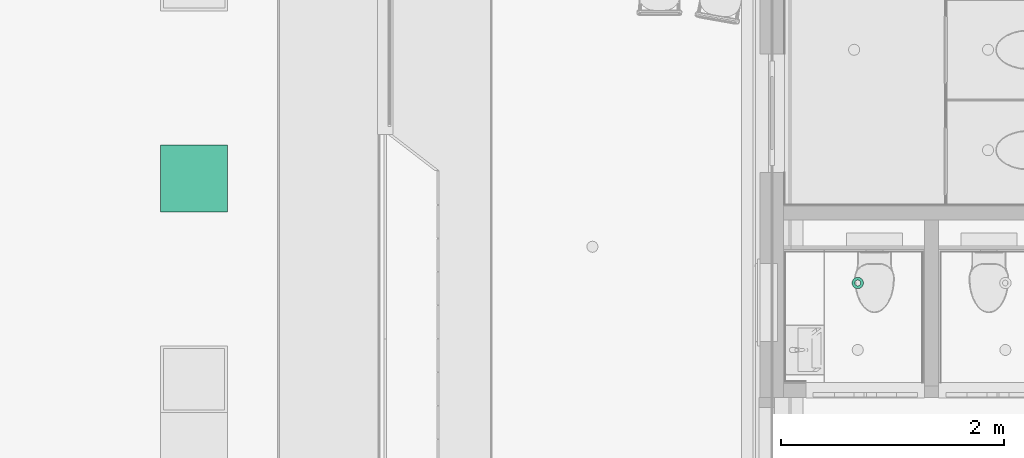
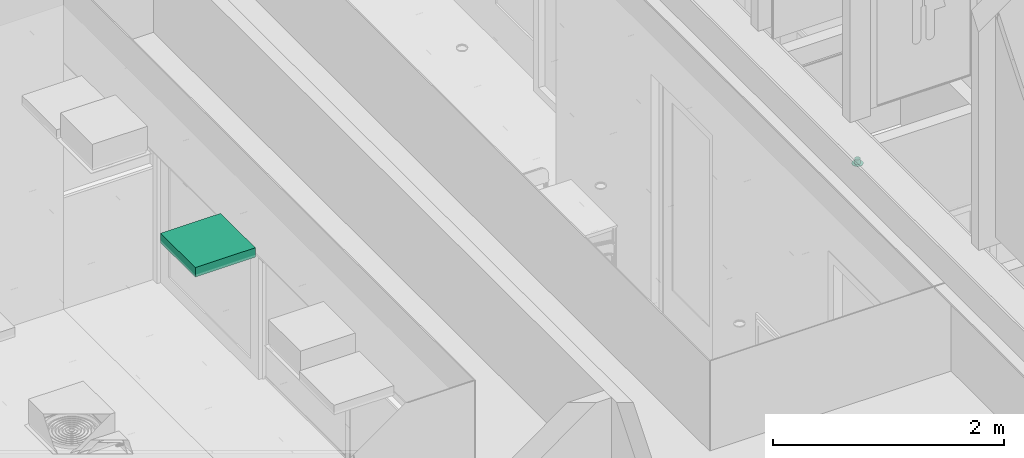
# One storey, part 231 of 347: 2 flow terminals.
"""IFC2X3 building model written with IfcOpenShell, lengths in millimetres."""

from ifc_helpers import new_model, entity, si_unit, converted_unit, derived_unit, money_unit, direction, frame, origin_with_axes, place, context, subcontext, project, spatial, open_shell, faceted_brep, surface_model, source, transform, mapped, type_object, type_shapes, element, save


model = new_model("IFC2X3")

# Units and contexts
model_context = context("Model", 3, precision=0.01, world=origin_with_axes(), true_north=direction((0.0, 1.0)))
plan_context = context("Plan", 3, precision=0.01, world=origin_with_axes(), true_north=direction((0.0, 1.0)))
body_context = subcontext(model_context, "Body", "Model", "MODEL_VIEW")
ifc_project = project(units=[si_unit("LENGTHUNIT", "METRE", prefix="MILLI"), si_unit("AREAUNIT", "SQUARE_METRE"), si_unit("VOLUMEUNIT", "CUBIC_METRE"), converted_unit("PLANEANGLEUNIT", "DEGREE", entity("IfcPlaneAngleMeasure", 0.0174532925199), si_unit("PLANEANGLEUNIT", "RADIAN"), dimensions=[0, 0, 0, 0, 0, 0, 0]), money_unit("EUR"), converted_unit("TIMEUNIT", "Year", entity("IfcTimeMeasure", 31556926.0), si_unit("TIMEUNIT", "SECOND"), dimensions=[0, 0, 1, 0, 0, 0, 0]), si_unit("MASSUNIT", "GRAM", prefix="KILO"), si_unit("THERMODYNAMICTEMPERATUREUNIT", "DEGREE_CELSIUS"), si_unit("LUMINOUSINTENSITYUNIT", "LUMEN"), si_unit("ENERGYUNIT", "JOULE", prefix="MEGA"), derived_unit("THERMALCONDUCTANCEUNIT", [(si_unit("POWERUNIT", "WATT"), 1), (si_unit("LENGTHUNIT", "METRE"), -1), (si_unit("THERMODYNAMICTEMPERATUREUNIT", "KELVIN"), -1)]), derived_unit("SPECIFICHEATCAPACITYUNIT", [(si_unit("ENERGYUNIT", "JOULE"), 1), (si_unit("MASSUNIT", "GRAM", prefix="KILO"), -1), (si_unit("THERMODYNAMICTEMPERATUREUNIT", "KELVIN"), -1)]), derived_unit("MASSDENSITYUNIT", [(si_unit("MASSUNIT", "GRAM", prefix="KILO"), 1), (si_unit("VOLUMEUNIT", "CUBIC_METRE"), -1)])], contexts=[model_context, plan_context])

# Site, building, storey
site_placement = place(None, origin_with_axes())
site = spatial("IfcSite", under=ifc_project, at=site_placement, Name="Site", CompositionType="ELEMENT")
building_placement = place(site_placement, origin_with_axes())
building = spatial("IfcBuilding", under=site, at=building_placement, Name="Naam gebouw", CompositionType="ELEMENT")
storey_placement = place(building_placement, origin_with_axes())
storey = spatial("IfcBuildingStorey", under=building, at=storey_placement, Name="begane grond", CompositionType="ELEMENT", Elevation=0.0)

# Flow terminals
lamp_type = type_object("IfcLampType", Name="TL plafond 25", PredefinedType="NOTDEFINED")
shared_shape_1 = source(origin_with_axes(), body_context, "Body", "SurfaceModel", [
    faceted_brep([(0.0, 0.0, -100.0), (600.0, 0.0, -100.0), (600.0, 0.0, 0.0), (0.0, 0.0, 0.0), (0.0, 600.0, -100.0), (600.0, 600.0, -100.0), (40.0, 40.0, -100.0), (560.0, 40.0, -100.0), (560.0, 560.0, -100.0), (40.0, 560.0, -100.0), (600.0, 600.0, 0.0), (0.0, 600.0, 0.0), (40.0, 40.0, 0.0), (40.0, 560.0, 0.0), (560.0, 560.0, 0.0), (560.0, 40.0, 0.0)], [[[0, 1, 2, 3]], [[0, 4, 5, 1], [6, 7, 8, 9]], [[1, 5, 10, 2]], [[3, 2, 10, 11], [12, 13, 14, 15]], [[4, 0, 3, 11]], [[5, 4, 11, 10]], [[7, 6, 12, 15]], [[8, 7, 15, 14]], [[9, 8, 14, 13]], [[6, 9, 13, 12]]]),
    faceted_brep([(40.0, 40.0, -16.3333333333), (560.0, 40.0, -16.3333333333), (560.0, 40.0, 0.0), (40.0, 40.0, 0.0), (40.0, 560.0, -16.3333333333), (560.0, 560.0, -16.3333333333), (560.0, 560.0, 0.0), (40.0, 560.0, 0.0)], [[[0, 1, 2, 3]], [[0, 4, 5, 1]], [[1, 5, 6, 2]], [[3, 2, 6, 7]], [[4, 0, 3, 7]], [[5, 4, 7, 6]]]),
    surface_model("IfcShellBasedSurfaceModel", [(559.0, 41.0, -100.0), (40.0, 41.0, -100.0), (40.0, 559.0, -100.0), (559.0, 559.0, -100.0)], [open_shell([[[0, 1, 2, 3]]])]),
    faceted_brep([(40.0, 40.0, -100.0), (560.0, 40.0, -100.0), (560.0, 40.0, -60.0), (40.0, 40.0, -60.0), (40.0, 560.0, -100.0), (560.0, 560.0, -100.0), (41.0, 41.0, -100.0), (559.0, 41.0, -100.0), (559.0, 559.0, -100.0), (41.0, 559.0, -100.0), (560.0, 560.0, -60.0), (40.0, 560.0, -60.0), (41.0, 41.0, -60.0), (41.0, 559.0, -60.0), (559.0, 559.0, -60.0), (559.0, 41.0, -60.0)], [[[0, 1, 2, 3]], [[0, 4, 5, 1], [6, 7, 8, 9]], [[1, 5, 10, 2]], [[3, 2, 10, 11], [12, 13, 14, 15]], [[4, 0, 3, 11]], [[5, 4, 11, 10]], [[7, 6, 12, 15]], [[8, 7, 15, 14]], [[9, 8, 14, 13]], [[6, 9, 13, 12]]]),
    faceted_brep([(40.0, 144.0, -48.3333333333), (40.0, 149.740251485, -47.191526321), (560.0, 149.740251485, -47.191526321), (560.0, 144.0, -48.3333333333), (40.0, 138.259748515, -47.191526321), (40.0, 133.393398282, -43.9399350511), (40.0, 130.141807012, -39.0735848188), (40.0, 129.0, -33.3333333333), (40.0, 130.141807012, -27.5930818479), (40.0, 133.393398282, -22.7267316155), (40.0, 138.259748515, -19.4751403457), (40.0, 144.0, -18.3333333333), (40.0, 149.740251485, -19.4751403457), (40.0, 154.606601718, -22.7267316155), (40.0, 157.858192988, -27.5930818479), (40.0, 159.0, -33.3333333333), (40.0, 157.858192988, -39.0735848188), (40.0, 154.606601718, -43.9399350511), (40.0, 144.0, -46.3333333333), (40.0, 148.974884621, -45.343767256), (40.0, 153.192388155, -42.5257214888), (40.0, 156.010433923, -38.3082179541), (40.0, 157.0, -33.3333333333), (40.0, 156.010433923, -28.3584487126), (40.0, 153.192388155, -24.1409451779), (40.0, 148.974884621, -21.3228994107), (40.0, 144.0, -20.3333333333), (40.0, 139.025115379, -21.3228994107), (40.0, 134.807611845, -24.1409451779), (40.0, 131.989566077, -28.3584487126), (40.0, 131.0, -33.3333333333), (40.0, 131.989566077, -38.3082179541), (40.0, 134.807611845, -42.5257214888), (40.0, 139.025115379, -45.343767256), (560.0, 154.606601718, -43.9399350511), (560.0, 157.858192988, -39.0735848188), (560.0, 159.0, -33.3333333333), (560.0, 157.858192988, -27.5930818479), (560.0, 154.606601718, -22.7267316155), (560.0, 149.740251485, -19.4751403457), (560.0, 144.0, -18.3333333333), (560.0, 138.259748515, -19.4751403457), (560.0, 133.393398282, -22.7267316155), (560.0, 130.141807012, -27.5930818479), (560.0, 129.0, -33.3333333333), (560.0, 130.141807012, -39.0735848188), (560.0, 133.393398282, -43.9399350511), (560.0, 138.259748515, -47.191526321), (560.0, 144.0, -46.3333333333), (560.0, 139.025115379, -45.343767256), (560.0, 134.807611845, -42.5257214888), (560.0, 131.989566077, -38.3082179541), (560.0, 131.0, -33.3333333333), (560.0, 131.989566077, -28.3584487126), (560.0, 134.807611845, -24.1409451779), (560.0, 139.025115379, -21.3228994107), (560.0, 144.0, -20.3333333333), (560.0, 148.974884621, -21.3228994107), (560.0, 153.192388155, -24.1409451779), (560.0, 156.010433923, -28.3584487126), (560.0, 157.0, -33.3333333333), (560.0, 156.010433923, -38.3082179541), (560.0, 153.192388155, -42.5257214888), (560.0, 148.974884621, -45.343767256)], [[[0, 1, 2, 3]], [[0, 4, 5, 6, 7, 8, 9, 10, 11, 12, 13, 14, 15, 16, 17, 1], [18, 19, 20, 21, 22, 23, 24, 25, 26, 27, 28, 29, 30, 31, 32, 33]], [[1, 17, 34, 2]], [[3, 2, 34, 35, 36, 37, 38, 39, 40, 41, 42, 43, 44, 45, 46, 47], [48, 49, 50, 51, 52, 53, 54, 55, 56, 57, 58, 59, 60, 61, 62, 63]], [[4, 0, 3, 47]], [[5, 4, 47, 46]], [[6, 5, 46, 45]], [[7, 6, 45, 44]], [[8, 7, 44, 43]], [[9, 8, 43, 42]], [[10, 9, 42, 41]], [[11, 10, 41, 40]], [[12, 11, 40, 39]], [[13, 12, 39, 38]], [[14, 13, 38, 37]], [[15, 14, 37, 36]], [[16, 15, 36, 35]], [[17, 16, 35, 34]], [[19, 18, 48, 63]], [[20, 19, 63, 62]], [[21, 20, 62, 61]], [[22, 21, 61, 60]], [[23, 22, 60, 59]], [[24, 23, 59, 58]], [[25, 24, 58, 57]], [[26, 25, 57, 56]], [[27, 26, 56, 55]], [[28, 27, 55, 54]], [[29, 28, 54, 53]], [[30, 29, 53, 52]], [[31, 30, 52, 51]], [[32, 31, 51, 50]], [[33, 32, 50, 49]], [[18, 33, 49, 48]]]),
    faceted_brep([(40.0, 248.0, -48.3333333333), (40.0, 253.740251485, -47.191526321), (560.0, 253.740251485, -47.191526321), (560.0, 248.0, -48.3333333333), (40.0, 242.259748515, -47.191526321), (40.0, 237.393398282, -43.9399350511), (40.0, 234.141807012, -39.0735848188), (40.0, 233.0, -33.3333333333), (40.0, 234.141807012, -27.5930818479), (40.0, 237.393398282, -22.7267316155), (40.0, 242.259748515, -19.4751403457), (40.0, 248.0, -18.3333333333), (40.0, 253.740251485, -19.4751403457), (40.0, 258.606601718, -22.7267316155), (40.0, 261.858192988, -27.5930818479), (40.0, 263.0, -33.3333333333), (40.0, 261.858192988, -39.0735848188), (40.0, 258.606601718, -43.9399350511), (40.0, 248.0, -46.3333333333), (40.0, 252.974884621, -45.343767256), (40.0, 257.192388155, -42.5257214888), (40.0, 260.010433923, -38.3082179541), (40.0, 261.0, -33.3333333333), (40.0, 260.010433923, -28.3584487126), (40.0, 257.192388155, -24.1409451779), (40.0, 252.974884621, -21.3228994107), (40.0, 248.0, -20.3333333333), (40.0, 243.025115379, -21.3228994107), (40.0, 238.807611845, -24.1409451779), (40.0, 235.989566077, -28.3584487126), (40.0, 235.0, -33.3333333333), (40.0, 235.989566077, -38.3082179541), (40.0, 238.807611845, -42.5257214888), (40.0, 243.025115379, -45.343767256), (560.0, 258.606601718, -43.9399350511), (560.0, 261.858192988, -39.0735848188), (560.0, 263.0, -33.3333333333), (560.0, 261.858192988, -27.5930818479), (560.0, 258.606601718, -22.7267316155), (560.0, 253.740251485, -19.4751403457), (560.0, 248.0, -18.3333333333), (560.0, 242.259748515, -19.4751403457), (560.0, 237.393398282, -22.7267316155), (560.0, 234.141807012, -27.5930818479), (560.0, 233.0, -33.3333333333), (560.0, 234.141807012, -39.0735848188), (560.0, 237.393398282, -43.9399350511), (560.0, 242.259748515, -47.191526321), (560.0, 248.0, -46.3333333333), (560.0, 243.025115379, -45.343767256), (560.0, 238.807611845, -42.5257214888), (560.0, 235.989566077, -38.3082179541), (560.0, 235.0, -33.3333333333), (560.0, 235.989566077, -28.3584487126), (560.0, 238.807611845, -24.1409451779), (560.0, 243.025115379, -21.3228994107), (560.0, 248.0, -20.3333333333), (560.0, 252.974884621, -21.3228994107), (560.0, 257.192388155, -24.1409451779), (560.0, 260.010433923, -28.3584487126), (560.0, 261.0, -33.3333333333), (560.0, 260.010433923, -38.3082179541), (560.0, 257.192388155, -42.5257214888), (560.0, 252.974884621, -45.343767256)], [[[0, 1, 2, 3]], [[0, 4, 5, 6, 7, 8, 9, 10, 11, 12, 13, 14, 15, 16, 17, 1], [18, 19, 20, 21, 22, 23, 24, 25, 26, 27, 28, 29, 30, 31, 32, 33]], [[1, 17, 34, 2]], [[3, 2, 34, 35, 36, 37, 38, 39, 40, 41, 42, 43, 44, 45, 46, 47], [48, 49, 50, 51, 52, 53, 54, 55, 56, 57, 58, 59, 60, 61, 62, 63]], [[4, 0, 3, 47]], [[5, 4, 47, 46]], [[6, 5, 46, 45]], [[7, 6, 45, 44]], [[8, 7, 44, 43]], [[9, 8, 43, 42]], [[10, 9, 42, 41]], [[11, 10, 41, 40]], [[12, 11, 40, 39]], [[13, 12, 39, 38]], [[14, 13, 38, 37]], [[15, 14, 37, 36]], [[16, 15, 36, 35]], [[17, 16, 35, 34]], [[19, 18, 48, 63]], [[20, 19, 63, 62]], [[21, 20, 62, 61]], [[22, 21, 61, 60]], [[23, 22, 60, 59]], [[24, 23, 59, 58]], [[25, 24, 58, 57]], [[26, 25, 57, 56]], [[27, 26, 56, 55]], [[28, 27, 55, 54]], [[29, 28, 54, 53]], [[30, 29, 53, 52]], [[31, 30, 52, 51]], [[32, 31, 51, 50]], [[33, 32, 50, 49]], [[18, 33, 49, 48]]]),
    faceted_brep([(40.0, 352.0, -48.3333333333), (40.0, 357.740251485, -47.191526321), (560.0, 357.740251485, -47.191526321), (560.0, 352.0, -48.3333333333), (40.0, 346.259748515, -47.191526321), (40.0, 341.393398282, -43.9399350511), (40.0, 338.141807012, -39.0735848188), (40.0, 337.0, -33.3333333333), (40.0, 338.141807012, -27.5930818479), (40.0, 341.393398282, -22.7267316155), (40.0, 346.259748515, -19.4751403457), (40.0, 352.0, -18.3333333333), (40.0, 357.740251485, -19.4751403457), (40.0, 362.606601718, -22.7267316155), (40.0, 365.858192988, -27.5930818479), (40.0, 367.0, -33.3333333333), (40.0, 365.858192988, -39.0735848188), (40.0, 362.606601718, -43.9399350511), (40.0, 352.0, -46.3333333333), (40.0, 356.974884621, -45.343767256), (40.0, 361.192388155, -42.5257214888), (40.0, 364.010433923, -38.3082179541), (40.0, 365.0, -33.3333333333), (40.0, 364.010433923, -28.3584487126), (40.0, 361.192388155, -24.1409451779), (40.0, 356.974884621, -21.3228994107), (40.0, 352.0, -20.3333333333), (40.0, 347.025115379, -21.3228994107), (40.0, 342.807611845, -24.1409451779), (40.0, 339.989566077, -28.3584487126), (40.0, 339.0, -33.3333333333), (40.0, 339.989566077, -38.3082179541), (40.0, 342.807611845, -42.5257214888), (40.0, 347.025115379, -45.343767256), (560.0, 362.606601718, -43.9399350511), (560.0, 365.858192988, -39.0735848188), (560.0, 367.0, -33.3333333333), (560.0, 365.858192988, -27.5930818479), (560.0, 362.606601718, -22.7267316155), (560.0, 357.740251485, -19.4751403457), (560.0, 352.0, -18.3333333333), (560.0, 346.259748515, -19.4751403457), (560.0, 341.393398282, -22.7267316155), (560.0, 338.141807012, -27.5930818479), (560.0, 337.0, -33.3333333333), (560.0, 338.141807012, -39.0735848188), (560.0, 341.393398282, -43.9399350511), (560.0, 346.259748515, -47.191526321), (560.0, 352.0, -46.3333333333), (560.0, 347.025115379, -45.343767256), (560.0, 342.807611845, -42.5257214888), (560.0, 339.989566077, -38.3082179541), (560.0, 339.0, -33.3333333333), (560.0, 339.989566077, -28.3584487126), (560.0, 342.807611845, -24.1409451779), (560.0, 347.025115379, -21.3228994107), (560.0, 352.0, -20.3333333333), (560.0, 356.974884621, -21.3228994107), (560.0, 361.192388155, -24.1409451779), (560.0, 364.010433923, -28.3584487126), (560.0, 365.0, -33.3333333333), (560.0, 364.010433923, -38.3082179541), (560.0, 361.192388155, -42.5257214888), (560.0, 356.974884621, -45.343767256)], [[[0, 1, 2, 3]], [[0, 4, 5, 6, 7, 8, 9, 10, 11, 12, 13, 14, 15, 16, 17, 1], [18, 19, 20, 21, 22, 23, 24, 25, 26, 27, 28, 29, 30, 31, 32, 33]], [[1, 17, 34, 2]], [[3, 2, 34, 35, 36, 37, 38, 39, 40, 41, 42, 43, 44, 45, 46, 47], [48, 49, 50, 51, 52, 53, 54, 55, 56, 57, 58, 59, 60, 61, 62, 63]], [[4, 0, 3, 47]], [[5, 4, 47, 46]], [[6, 5, 46, 45]], [[7, 6, 45, 44]], [[8, 7, 44, 43]], [[9, 8, 43, 42]], [[10, 9, 42, 41]], [[11, 10, 41, 40]], [[12, 11, 40, 39]], [[13, 12, 39, 38]], [[14, 13, 38, 37]], [[15, 14, 37, 36]], [[16, 15, 36, 35]], [[17, 16, 35, 34]], [[19, 18, 48, 63]], [[20, 19, 63, 62]], [[21, 20, 62, 61]], [[22, 21, 61, 60]], [[23, 22, 60, 59]], [[24, 23, 59, 58]], [[25, 24, 58, 57]], [[26, 25, 57, 56]], [[27, 26, 56, 55]], [[28, 27, 55, 54]], [[29, 28, 54, 53]], [[30, 29, 53, 52]], [[31, 30, 52, 51]], [[32, 31, 51, 50]], [[33, 32, 50, 49]], [[18, 33, 49, 48]]]),
    faceted_brep([(40.0, 456.0, -48.3333333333), (40.0, 461.740251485, -47.191526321), (560.0, 461.740251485, -47.191526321), (560.0, 456.0, -48.3333333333), (40.0, 450.259748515, -47.191526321), (40.0, 445.393398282, -43.9399350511), (40.0, 442.141807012, -39.0735848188), (40.0, 441.0, -33.3333333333), (40.0, 442.141807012, -27.5930818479), (40.0, 445.393398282, -22.7267316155), (40.0, 450.259748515, -19.4751403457), (40.0, 456.0, -18.3333333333), (40.0, 461.740251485, -19.4751403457), (40.0, 466.606601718, -22.7267316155), (40.0, 469.858192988, -27.5930818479), (40.0, 471.0, -33.3333333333), (40.0, 469.858192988, -39.0735848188), (40.0, 466.606601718, -43.9399350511), (40.0, 456.0, -46.3333333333), (40.0, 460.974884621, -45.343767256), (40.0, 465.192388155, -42.5257214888), (40.0, 468.010433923, -38.3082179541), (40.0, 469.0, -33.3333333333), (40.0, 468.010433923, -28.3584487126), (40.0, 465.192388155, -24.1409451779), (40.0, 460.974884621, -21.3228994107), (40.0, 456.0, -20.3333333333), (40.0, 451.025115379, -21.3228994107), (40.0, 446.807611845, -24.1409451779), (40.0, 443.989566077, -28.3584487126), (40.0, 443.0, -33.3333333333), (40.0, 443.989566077, -38.3082179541), (40.0, 446.807611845, -42.5257214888), (40.0, 451.025115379, -45.343767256), (560.0, 466.606601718, -43.9399350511), (560.0, 469.858192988, -39.0735848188), (560.0, 471.0, -33.3333333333), (560.0, 469.858192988, -27.5930818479), (560.0, 466.606601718, -22.7267316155), (560.0, 461.740251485, -19.4751403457), (560.0, 456.0, -18.3333333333), (560.0, 450.259748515, -19.4751403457), (560.0, 445.393398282, -22.7267316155), (560.0, 442.141807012, -27.5930818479), (560.0, 441.0, -33.3333333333), (560.0, 442.141807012, -39.0735848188), (560.0, 445.393398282, -43.9399350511), (560.0, 450.259748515, -47.191526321), (560.0, 456.0, -46.3333333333), (560.0, 451.025115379, -45.343767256), (560.0, 446.807611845, -42.5257214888), (560.0, 443.989566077, -38.3082179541), (560.0, 443.0, -33.3333333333), (560.0, 443.989566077, -28.3584487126), (560.0, 446.807611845, -24.1409451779), (560.0, 451.025115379, -21.3228994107), (560.0, 456.0, -20.3333333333), (560.0, 460.974884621, -21.3228994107), (560.0, 465.192388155, -24.1409451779), (560.0, 468.010433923, -28.3584487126), (560.0, 469.0, -33.3333333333), (560.0, 468.010433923, -38.3082179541), (560.0, 465.192388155, -42.5257214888), (560.0, 460.974884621, -45.343767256)], [[[0, 1, 2, 3]], [[0, 4, 5, 6, 7, 8, 9, 10, 11, 12, 13, 14, 15, 16, 17, 1], [18, 19, 20, 21, 22, 23, 24, 25, 26, 27, 28, 29, 30, 31, 32, 33]], [[1, 17, 34, 2]], [[3, 2, 34, 35, 36, 37, 38, 39, 40, 41, 42, 43, 44, 45, 46, 47], [48, 49, 50, 51, 52, 53, 54, 55, 56, 57, 58, 59, 60, 61, 62, 63]], [[4, 0, 3, 47]], [[5, 4, 47, 46]], [[6, 5, 46, 45]], [[7, 6, 45, 44]], [[8, 7, 44, 43]], [[9, 8, 43, 42]], [[10, 9, 42, 41]], [[11, 10, 41, 40]], [[12, 11, 40, 39]], [[13, 12, 39, 38]], [[14, 13, 38, 37]], [[15, 14, 37, 36]], [[16, 15, 36, 35]], [[17, 16, 35, 34]], [[19, 18, 48, 63]], [[20, 19, 63, 62]], [[21, 20, 62, 61]], [[22, 21, 61, 60]], [[23, 22, 60, 59]], [[24, 23, 59, 58]], [[25, 24, 58, 57]], [[26, 25, 57, 56]], [[27, 26, 56, 55]], [[28, 27, 55, 54]], [[29, 28, 54, 53]], [[30, 29, 53, 52]], [[31, 30, 52, 51]], [[32, 31, 51, 50]], [[33, 32, 50, 49]], [[18, 33, 49, 48]]]),
])
type_shapes(lamp_type, [shared_shape_1])
flow_terminal_1_placement = place(storey_placement, frame((30125.0, 31737.5, 3295.0), z_axis=(0.0, 0.0, 1.0), x_axis=(1.0, 0.0, 0.0)))
element("IfcFlowTerminal", 1, at=flow_terminal_1_placement, inside=storey, type_object=lamp_type, Name="63_Lamp-x", ObjectType="Lamp", context=body_context, shape_type="MappedRepresentation", body=[
    mapped(shared_shape_1, transform((0.0, 0.0, 0.0))),
])
air_terminal_type = type_object("IfcAirTerminalType", Name="Rooster plafond rond 25", PredefinedType="GRILLE")
shared_shape_2 = source(origin_with_axes(), body_context, "Body", "SurfaceModel", [
    faceted_brep([(51.0, 0.0, -5.0), (49.2622171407, 13.1997713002, -5.0), (49.2622171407, 13.1997713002, 0.0), (51.0, 0.0, 0.0), (49.2622171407, -13.1997713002, -5.0), (44.167295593, -25.5, -5.0), (36.0624458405, -36.0624458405, -5.0), (25.5, -44.167295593, -5.0), (13.1997713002, -49.2622171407, -5.0), (0.0, -51.0, -5.0), (-13.1997713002, -49.2622171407, -5.0), (-25.5, -44.167295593, -5.0), (-36.0624458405, -36.0624458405, -5.0), (-44.167295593, -25.5, -5.0), (-49.2622171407, -13.1997713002, -5.0), (-51.0, 0.0, -5.0), (-49.2622171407, 13.1997713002, -5.0), (-44.167295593, 25.5, -5.0), (-36.0624458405, 36.0624458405, -5.0), (-25.5, 44.167295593, -5.0), (-13.1997713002, 49.2622171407, -5.0), (0.0, 51.0, -5.0), (13.1997713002, 49.2622171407, -5.0), (25.5, 44.167295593, -5.0), (36.0624458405, 36.0624458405, -5.0), (44.167295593, 25.5, -5.0), (26.0, 0.0, -5.0), (25.1140714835, 6.72929517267, -5.0), (22.5166604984, 13.0, -5.0), (18.3847763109, 18.3847763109, -5.0), (13.0, 22.5166604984, -5.0), (6.72929517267, 25.1140714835, -5.0), (0.0, 26.0, -5.0), (-6.72929517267, 25.1140714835, -5.0), (-13.0, 22.5166604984, -5.0), (-18.3847763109, 18.3847763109, -5.0), (-22.5166604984, 13.0, -5.0), (-25.1140714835, 6.72929517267, -5.0), (-26.0, 0.0, -5.0), (-25.1140714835, -6.72929517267, -5.0), (-22.5166604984, -13.0, -5.0), (-18.3847763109, -18.3847763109, -5.0), (-13.0, -22.5166604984, -5.0), (-6.72929517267, -25.1140714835, -5.0), (0.0, -26.0, -5.0), (6.72929517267, -25.1140714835, -5.0), (13.0, -22.5166604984, -5.0), (18.3847763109, -18.3847763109, -5.0), (22.5166604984, -13.0, -5.0), (25.1140714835, -6.72929517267, -5.0), (44.167295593, 25.5, 0.0), (36.0624458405, 36.0624458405, 0.0), (25.5, 44.167295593, 0.0), (13.1997713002, 49.2622171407, 0.0), (0.0, 51.0, 0.0), (-13.1997713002, 49.2622171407, 0.0), (-25.5, 44.167295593, 0.0), (-36.0624458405, 36.0624458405, 0.0), (-44.167295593, 25.5, 0.0), (-49.2622171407, 13.1997713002, 0.0), (-51.0, 0.0, 0.0), (-49.2622171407, -13.1997713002, 0.0), (-44.167295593, -25.5, 0.0), (-36.0624458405, -36.0624458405, 0.0), (-25.5, -44.167295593, 0.0), (-13.1997713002, -49.2622171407, 0.0), (0.0, -51.0, 0.0), (13.1997713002, -49.2622171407, 0.0), (25.5, -44.167295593, 0.0), (36.0624458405, -36.0624458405, 0.0), (44.167295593, -25.5, 0.0), (49.2622171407, -13.1997713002, 0.0), (26.0, 0.0, 0.0), (25.1140714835, -6.72929517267, 0.0), (22.5166604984, -13.0, 0.0), (18.3847763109, -18.3847763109, 0.0), (13.0, -22.5166604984, 0.0), (6.72929517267, -25.1140714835, 0.0), (0.0, -26.0, 0.0), (-6.72929517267, -25.1140714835, 0.0), (-13.0, -22.5166604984, 0.0), (-18.3847763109, -18.3847763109, 0.0), (-22.5166604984, -13.0, 0.0), (-25.1140714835, -6.72929517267, 0.0), (-26.0, 0.0, 0.0), (-25.1140714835, 6.72929517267, 0.0), (-22.5166604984, 13.0, 0.0), (-18.3847763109, 18.3847763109, 0.0), (-13.0, 22.5166604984, 0.0), (-6.72929517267, 25.1140714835, 0.0), (0.0, 26.0, 0.0), (6.72929517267, 25.1140714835, 0.0), (13.0, 22.5166604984, 0.0), (18.3847763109, 18.3847763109, 0.0), (22.5166604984, 13.0, 0.0), (25.1140714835, 6.72929517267, 0.0)], [[[0, 1, 2, 3]], [[0, 4, 5, 6, 7, 8, 9, 10, 11, 12, 13, 14, 15, 16, 17, 18, 19, 20, 21, 22, 23, 24, 25, 1], [26, 27, 28, 29, 30, 31, 32, 33, 34, 35, 36, 37, 38, 39, 40, 41, 42, 43, 44, 45, 46, 47, 48, 49]], [[1, 25, 50, 2]], [[3, 2, 50, 51, 52, 53, 54, 55, 56, 57, 58, 59, 60, 61, 62, 63, 64, 65, 66, 67, 68, 69, 70, 71], [72, 73, 74, 75, 76, 77, 78, 79, 80, 81, 82, 83, 84, 85, 86, 87, 88, 89, 90, 91, 92, 93, 94, 95]], [[4, 0, 3, 71]], [[5, 4, 71, 70]], [[6, 5, 70, 69]], [[7, 6, 69, 68]], [[8, 7, 68, 67]], [[9, 8, 67, 66]], [[10, 9, 66, 65]], [[11, 10, 65, 64]], [[12, 11, 64, 63]], [[13, 12, 63, 62]], [[14, 13, 62, 61]], [[15, 14, 61, 60]], [[16, 15, 60, 59]], [[17, 16, 59, 58]], [[18, 17, 58, 57]], [[19, 18, 57, 56]], [[20, 19, 56, 55]], [[21, 20, 55, 54]], [[22, 21, 54, 53]], [[23, 22, 53, 52]], [[24, 23, 52, 51]], [[25, 24, 51, 50]], [[27, 26, 72, 95]], [[28, 27, 95, 94]], [[29, 28, 94, 93]], [[30, 29, 93, 92]], [[31, 30, 92, 91]], [[32, 31, 91, 90]], [[33, 32, 90, 89]], [[34, 33, 89, 88]], [[35, 34, 88, 87]], [[36, 35, 87, 86]], [[37, 36, 86, 85]], [[38, 37, 85, 84]], [[39, 38, 84, 83]], [[40, 39, 83, 82]], [[41, 40, 82, 81]], [[42, 41, 81, 80]], [[43, 42, 80, 79]], [[44, 43, 79, 78]], [[45, 44, 78, 77]], [[46, 45, 77, 76]], [[47, 46, 76, 75]], [[48, 47, 75, 74]], [[49, 48, 74, 73]], [[26, 49, 73, 72]]]),
    surface_model("IfcShellBasedSurfaceModel", [(0.0, -26.0, 0.0), (6.72929517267, -25.1140714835, 0.0), (6.72929517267, -25.1140714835, 50.0), (0.0, -26.0, 50.0), (13.0, -22.5166604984, 0.0), (13.0, -22.5166604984, 50.0), (-6.72929517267, -25.1140714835, 0.0), (-6.72929517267, -25.1140714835, 50.0), (18.3847763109, -18.3847763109, 0.0), (18.3847763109, -18.3847763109, 50.0), (-13.0, -22.5166604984, 0.0), (-13.0, -22.5166604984, 50.0), (22.5166604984, -13.0, 0.0), (22.5166604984, -13.0, 50.0), (-18.3847763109, -18.3847763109, 0.0), (-18.3847763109, -18.3847763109, 50.0), (25.1140714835, -6.72929517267, 0.0), (25.1140714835, -6.72929517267, 50.0), (-22.5166604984, -13.0, 0.0), (-22.5166604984, -13.0, 50.0), (26.0, 0.0, 0.0), (26.0, 0.0, 50.0), (-25.1140714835, -6.72929517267, 0.0), (-25.1140714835, -6.72929517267, 50.0), (25.1140714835, 6.72929517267, 0.0), (25.1140714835, 6.72929517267, 50.0), (-26.0, 0.0, 0.0), (-26.0, 0.0, 50.0), (22.5166604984, 13.0, 0.0), (22.5166604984, 13.0, 50.0), (-25.1140714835, 6.72929517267, 0.0), (-25.1140714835, 6.72929517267, 50.0), (18.3847763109, 18.3847763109, 0.0), (18.3847763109, 18.3847763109, 50.0), (-22.5166604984, 13.0, 0.0), (-22.5166604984, 13.0, 50.0), (13.0, 22.5166604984, 0.0), (13.0, 22.5166604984, 50.0), (-18.3847763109, 18.3847763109, 0.0), (-18.3847763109, 18.3847763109, 50.0), (6.72929517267, 25.1140714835, 0.0), (6.72929517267, 25.1140714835, 50.0), (-13.0, 22.5166604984, 0.0), (-13.0, 22.5166604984, 50.0), (0.0, 26.0, 0.0), (0.0, 26.0, 50.0), (-6.72929517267, 25.1140714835, 0.0), (-6.72929517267, 25.1140714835, 50.0)], [open_shell([[[0, 1, 2, 3]], [[1, 4, 5, 2]], [[6, 0, 3, 7]], [[4, 8, 9, 5]], [[10, 6, 7, 11]], [[8, 12, 13, 9]], [[14, 10, 11, 15]], [[12, 16, 17, 13]], [[18, 14, 15, 19]], [[16, 20, 21, 17]], [[22, 18, 19, 23]], [[20, 24, 25, 21]], [[26, 22, 23, 27]], [[24, 28, 29, 25]], [[30, 26, 27, 31]], [[28, 32, 33, 29]], [[34, 30, 31, 35]], [[32, 36, 37, 33]], [[38, 34, 35, 39]], [[36, 40, 41, 37]], [[42, 38, 39, 43]], [[40, 44, 45, 41]], [[46, 42, 43, 47]], [[44, 46, 47, 45]]])]),
])
type_shapes(air_terminal_type, [shared_shape_2])
flow_terminal_2_placement = place(storey_placement, frame((36372.5, 31099.9999277, 2600.0), z_axis=(0.0, 0.0, 1.0), x_axis=(1.0, 0.0, 0.0)))
element("IfcFlowTerminal", 2, at=flow_terminal_2_placement, inside=storey, type_object=air_terminal_type, Name="57_78 garderobe", context=body_context, shape_type="MappedRepresentation", body=[
    mapped(shared_shape_2, transform((0.0, 0.0, 0.0))),
])

save(model, "model.ifc")
